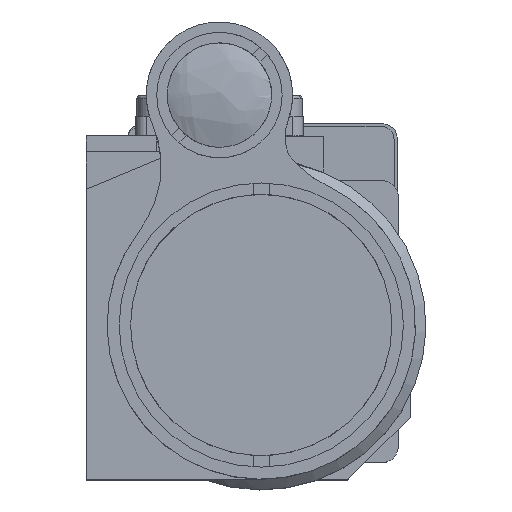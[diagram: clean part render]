
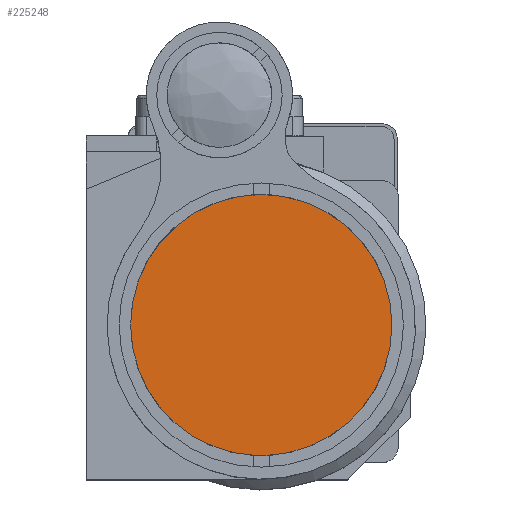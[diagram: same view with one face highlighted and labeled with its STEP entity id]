
A CAD part, top view. The second image highlights one B-rep face of the part: STEP entity #225248.
In plain terms, the highlighted planar face has unit normal (0, 0, 1) as drawn and (0, 1, 0) by its records, which use the part's own axes.
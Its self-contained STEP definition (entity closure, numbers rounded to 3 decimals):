
#60869 = DIRECTION ( 'NONE',  ( 0., 1., 0. ) ) ;
#131332 = CARTESIAN_POINT ( 'NONE',  ( 0., 3., 0. ) ) ;
#132698 = FACE_OUTER_BOUND ( 'NONE', #370055, .T. ) ;
#135324 = ORIENTED_EDGE ( 'NONE', *, *, #413898, .T. ) ;
#137111 = CARTESIAN_POINT ( 'NONE',  ( 0., 3., 0. ) ) ;
#225248 = ADVANCED_FACE ( 'NONE', ( #132698 ), #368231, .T. ) ;
#263357 = CARTESIAN_POINT ( 'NONE',  ( 0., 3., -13. ) ) ;
#268183 = DIRECTION ( 'NONE',  ( 0., 0., -1. ) ) ;
#269533 = DIRECTION ( 'NONE',  ( 0., 0., 1. ) ) ;
#297375 = DIRECTION ( 'NONE',  ( 0., 1., 0. ) ) ;
#331847 = AXIS2_PLACEMENT_3D ( 'NONE', #137111, #60869, #269533 ) ;
#333957 = CIRCLE ( 'NONE', #434545, 13. ) ;
#364304 = VERTEX_POINT ( 'NONE', #263357 ) ;
#368231 = PLANE ( 'NONE',  #331847 ) ;
#370055 = EDGE_LOOP ( 'NONE', ( #135324 ) ) ;
#413898 = EDGE_CURVE ( 'NONE', #364304, #364304, #333957, .T. ) ;
#434545 = AXIS2_PLACEMENT_3D ( 'NONE', #131332, #297375, #268183 ) ;
